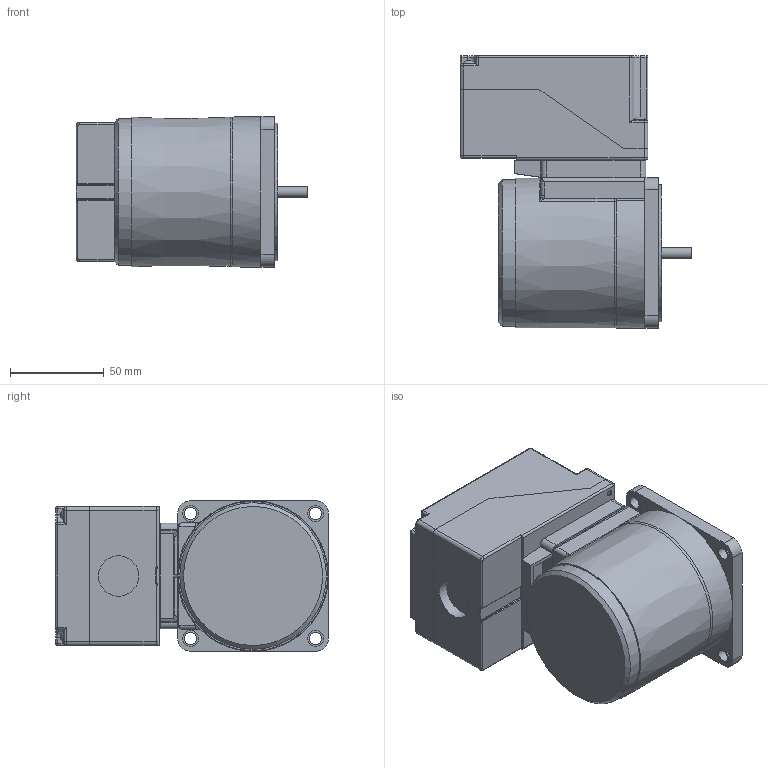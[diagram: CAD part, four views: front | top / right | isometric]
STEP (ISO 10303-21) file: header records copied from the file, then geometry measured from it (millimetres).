
FILE_DESCRIPTION(/* description */ (''),/* implementation_level */ '2;1');
FILE_NAME(/* name */ 'E:\도면작업\2016\0704) 미주향 SG 도면\3D MOTOR\TERMINAL BOX TYPE\INDUCTION TERMINAL BOX\SG8I25G_-T2.stp',/* time_stamp */ '2017-01-23T18:12:31+09:00',/* author */ ('jy-jung'),/* organization */ (''),/* preprocessor_version */ 'ST-DEVELOPER v15.6',/* originating_system */ 'Autodesk Inventor 2015',/* authorisation */ '');
FILE_SCHEMA (('AUTOMOTIVE_DESIGN { 1 0 10303 214 3 1 1 }'));
Length unit declared in the file: millimetre
Products named in the file (1): 부품4
Bounding box: 123.4 x 145 x 80 mm (x, y, z)
Volume: 567350.9 mm3; surface area: 118130.4 mm2
Topology: 1 solids, 5 shells, 844 faces, 2228 edges, 1421 vertices
Faces by surface type: plane 440, cylinder 294, bspline 48, torus 30, cone 20, sphere 12
Full cylindrical faces by diameter (mm): 2.5 x4, 3 x4, 3.2 x3, 3.4 x1, 4.2 x1, 4.5 x8, 5.5 x8, 5.72 x1, 6.5 x4, 6.9 x4, 8.5 x4, 21.5 x1, 34 x1, 73 x1, 78 x1
Entity records: 27994 total; most frequent: CARTESIAN_POINT 6528, DIRECTION 4278, ORIENTED_EDGE 4228, EDGE_CURVE 2114, AXIS2_PLACEMENT_3D 1510, VERTEX_POINT 1408, LINE 1258, VECTOR 1258
